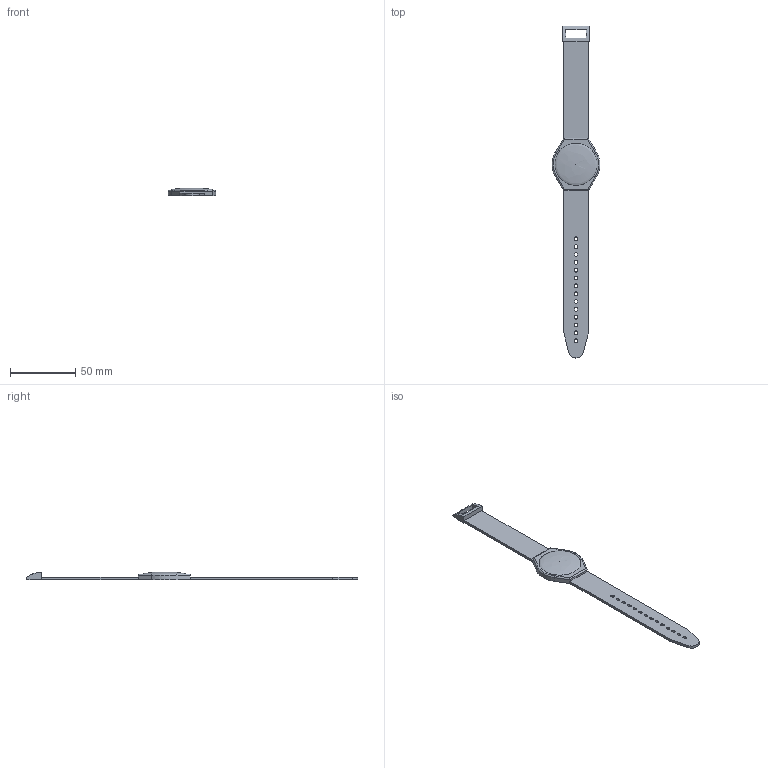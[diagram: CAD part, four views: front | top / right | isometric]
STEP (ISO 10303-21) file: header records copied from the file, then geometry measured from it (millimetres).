
FILE_DESCRIPTION(/* description */ ('Alibre Inc.'),/* implementation_level */ '2;1');
FILE_NAME(/* name */ 'export0',/* time_stamp */ '2013-07-17T12:39:54-06:00',/* author */ (''),/* organization */ (''),/* preprocessor_version */ 'ST-DEVELOPER v14',/* originating_system */ 'Alibre',/* authorisation */ '');
FILE_SCHEMA (('ALIBRE_SCHEMA','CONFIG_CONTROL_DESIGN'));
Length unit declared in the file: centimetre
Products named in the file (1): ID_1
Bounding box: 36.64 x 254.16 x 6.01 mm (x, y, z)
Volume: 13935.1 mm3; surface area: 11817.4 mm2
Topology: 1 solids, 1 shells, 92 faces, 256 edges, 166 vertices
Faces by surface type: plane 51, cylinder 37, torus 2, bspline 1, revolution 1
Entity records: 5591 total; most frequent: CARTESIAN_POINT 884, DIRECTION 590, ORIENTED_EDGE 510, CONSTRAINTPAIRUV 309, VECTOR 304, EDGE_CURVE 255, REFERENCEDEPENDENTUV 251, LINE 245
